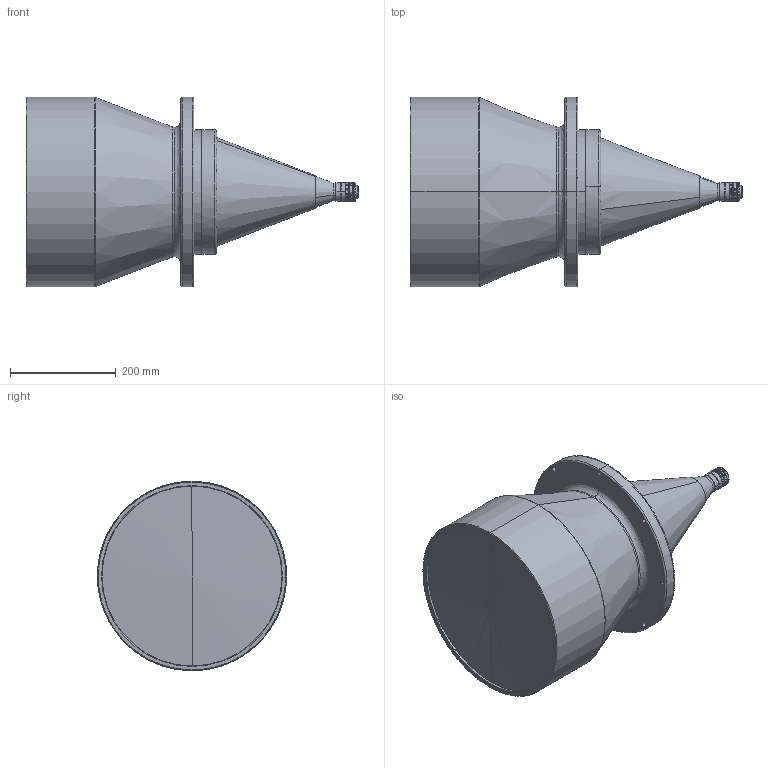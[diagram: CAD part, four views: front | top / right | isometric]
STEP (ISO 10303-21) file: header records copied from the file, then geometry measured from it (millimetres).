
FILE_DESCRIPTION (( 'STEP AP203' ), '1' );
FILE_NAME ('DTCM118-300S-AL.STEP', '2023-11-22T10:26:51', ( '' ), ( '' ), 'SwSTEP 2.0', 'SolidWorks 2017', '' );
FILE_SCHEMA (( 'CONFIG_CONTROL_DESIGN' ));
Length unit declared in the file: millimetre
Products named in the file (1): DTCM118-300S-AL
Bounding box: 627.7 x 358 x 358 mm (x, y, z)
Volume: 31529890 mm3; surface area: 686255.3 mm2
Topology: 1 solids, 6 shells, 259 faces, 649 edges, 414 vertices
Faces by surface type: cylinder 143, cone 76, plane 24, bspline 14, torus 2
Entity records: 9437 total; most frequent: CARTESIAN_POINT 3455, ORIENTED_EDGE 1290, DIRECTION 1162, EDGE_CURVE 645, AXIS2_PLACEMENT_3D 489, VERTEX_POINT 414, EDGE_LOOP 291, FACE_OUTER_BOUND 259
